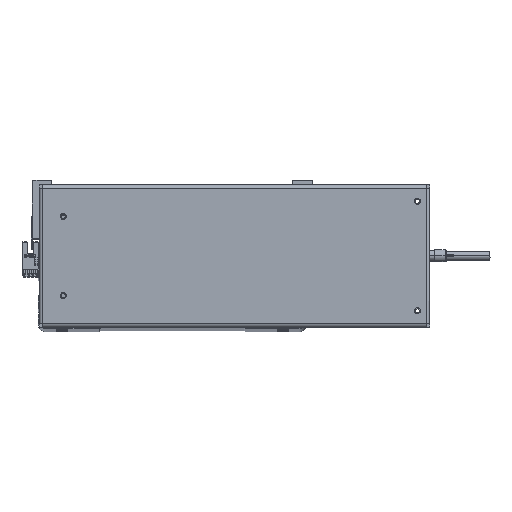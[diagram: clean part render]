
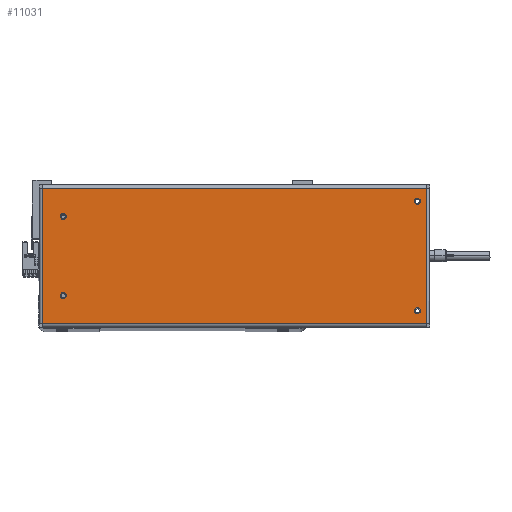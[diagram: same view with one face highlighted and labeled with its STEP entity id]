
A CAD part, top view. The second image highlights one B-rep face of the part: STEP entity #11031.
In plain terms, the highlighted planar face has unit normal (0, 0, 1).
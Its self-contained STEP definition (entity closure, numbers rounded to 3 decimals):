
#150 = VERTEX_POINT ( 'NONE', #29993 ) ;
#575 = VERTEX_POINT ( 'NONE', #26968 ) ;
#813 = VERTEX_POINT ( 'NONE', #40835 ) ;
#855 = CARTESIAN_POINT ( 'NONE',  ( 150.5, -45., 0. ) ) ;
#944 = CARTESIAN_POINT ( 'NONE',  ( -140.5, -32.5, 0. ) ) ;
#1209 = CARTESIAN_POINT ( 'NONE',  ( -143., -32.5, 0. ) ) ;
#1811 = AXIS2_PLACEMENT_3D ( 'NONE', #855, #20628, #27398 ) ;
#2831 = EDGE_LOOP ( 'NONE', ( #6246, #38321 ) ) ;
#3761 = CARTESIAN_POINT ( 'NONE',  ( -140.5, 32.5, 0. ) ) ;
#3867 = LINE ( 'NONE', #31747, #23269 ) ;
#4231 = CARTESIAN_POINT ( 'NONE',  ( 150.5, 45., 0. ) ) ;
#4738 = CARTESIAN_POINT ( 'NONE',  ( -157.7, -55.6, 0. ) ) ;
#5422 = CARTESIAN_POINT ( 'NONE',  ( -140.5, -32.5, 0. ) ) ;
#5443 = VERTEX_POINT ( 'NONE', #32523 ) ;
#5850 = AXIS2_PLACEMENT_3D ( 'NONE', #5422, #31160, #18545 ) ;
#6006 = VERTEX_POINT ( 'NONE', #31261 ) ;
#6246 = ORIENTED_EDGE ( 'NONE', *, *, #28097, .F. ) ;
#6923 = EDGE_CURVE ( 'NONE', #8421, #30774, #16231, .T. ) ;
#7291 = AXIS2_PLACEMENT_3D ( 'NONE', #4231, #33511, #20637 ) ;
#7321 = DIRECTION ( 'NONE',  ( 0., 0., 1. ) ) ;
#7381 = EDGE_CURVE ( 'NONE', #17137, #150, #33454, .T. ) ;
#8421 = VERTEX_POINT ( 'NONE', #21247 ) ;
#8557 = DIRECTION ( 'NONE',  ( 1., 0., 0. ) ) ;
#9391 = ORIENTED_EDGE ( 'NONE', *, *, #35282, .F. ) ;
#9622 = EDGE_CURVE ( 'NONE', #5443, #17137, #38468, .T. ) ;
#10382 = EDGE_CURVE ( 'NONE', #22117, #575, #36837, .T. ) ;
#11031 = ADVANCED_FACE ( 'NONE', ( #14412, #29180, #22090, #26641, #33734 ), #37830, .F. ) ;
#11108 = VECTOR ( 'NONE', #36424, 1000. ) ;
#11189 = AXIS2_PLACEMENT_3D ( 'NONE', #944, #7321, #27224 ) ;
#11957 = CIRCLE ( 'NONE', #12896, 2.5 ) ;
#12896 = AXIS2_PLACEMENT_3D ( 'NONE', #27693, #18054, #24588 ) ;
#13131 = CARTESIAN_POINT ( 'NONE',  ( 157.6, -55.6, 0. ) ) ;
#14132 = AXIS2_PLACEMENT_3D ( 'NONE', #37536, #28172, #8557 ) ;
#14412 = FACE_BOUND ( 'NONE', #39822, .T. ) ;
#14560 = DIRECTION ( 'NONE',  ( 0., 0., 1. ) ) ;
#14982 = CARTESIAN_POINT ( 'NONE',  ( -157.6, -55.6, 0. ) ) ;
#16172 = AXIS2_PLACEMENT_3D ( 'NONE', #30894, #14560, #30618 ) ;
#16231 = CIRCLE ( 'NONE', #5850, 2.5 ) ;
#16726 = DIRECTION ( 'NONE',  ( 0., 0., 1. ) ) ;
#17137 = VERTEX_POINT ( 'NONE', #14982 ) ;
#17405 = CARTESIAN_POINT ( 'NONE',  ( 157.7, 58.5, 0. ) ) ;
#17697 = ORIENTED_EDGE ( 'NONE', *, *, #19689, .F. ) ;
#17848 = ORIENTED_EDGE ( 'NONE', *, *, #36646, .T. ) ;
#18054 = DIRECTION ( 'NONE',  ( 0., 0., 1. ) ) ;
#18537 = ORIENTED_EDGE ( 'NONE', *, *, #25703, .T. ) ;
#18545 = DIRECTION ( 'NONE',  ( 1., 0., 0. ) ) ;
#19443 = DIRECTION ( 'NONE',  ( 1., 0., 0. ) ) ;
#19689 = EDGE_CURVE ( 'NONE', #813, #21437, #38982, .T. ) ;
#20379 = EDGE_CURVE ( 'NONE', #36272, #22484, #11957, .T. ) ;
#20628 = DIRECTION ( 'NONE',  ( 0., 0., 1. ) ) ;
#20637 = DIRECTION ( 'NONE',  ( 1., 0., 0. ) ) ;
#21247 = CARTESIAN_POINT ( 'NONE',  ( -138., -32.5, 0. ) ) ;
#21437 = VERTEX_POINT ( 'NONE', #30768 ) ;
#22090 = FACE_BOUND ( 'NONE', #2831, .T. ) ;
#22117 = VERTEX_POINT ( 'NONE', #22902 ) ;
#22137 = DIRECTION ( 'NONE',  ( 1., 0., 0. ) ) ;
#22484 = VERTEX_POINT ( 'NONE', #29356 ) ;
#22902 = CARTESIAN_POINT ( 'NONE',  ( 153., 45., 0. ) ) ;
#23215 = ORIENTED_EDGE ( 'NONE', *, *, #39365, .F. ) ;
#23269 = VECTOR ( 'NONE', #34717, 1000. ) ;
#24165 = CIRCLE ( 'NONE', #11189, 2.5 ) ;
#24588 = DIRECTION ( 'NONE',  ( 1., 0., 0. ) ) ;
#24839 = VECTOR ( 'NONE', #22137, 1000. ) ;
#24899 = CIRCLE ( 'NONE', #40413, 2.5 ) ;
#25703 = EDGE_CURVE ( 'NONE', #150, #6006, #38053, .T. ) ;
#26290 = CARTESIAN_POINT ( 'NONE',  ( 148., -45., 0. ) ) ;
#26300 = DIRECTION ( 'NONE',  ( 0., -1., 0. ) ) ;
#26312 = VECTOR ( 'NONE', #26300, 1000. ) ;
#26433 = CARTESIAN_POINT ( 'NONE',  ( -157.6, 55.6, 0. ) ) ;
#26641 = FACE_BOUND ( 'NONE', #30101, .T. ) ;
#26968 = CARTESIAN_POINT ( 'NONE',  ( 148., 45., 0. ) ) ;
#27224 = DIRECTION ( 'NONE',  ( 1., 0., 0. ) ) ;
#27398 = DIRECTION ( 'NONE',  ( 1., 0., 0. ) ) ;
#27693 = CARTESIAN_POINT ( 'NONE',  ( 150.5, -45., 0. ) ) ;
#28097 = EDGE_CURVE ( 'NONE', #22484, #36272, #41201, .T. ) ;
#28172 = DIRECTION ( 'NONE',  ( 0., 0., 1. ) ) ;
#29180 = FACE_BOUND ( 'NONE', #35937, .T. ) ;
#29356 = CARTESIAN_POINT ( 'NONE',  ( 153., -45., 0. ) ) ;
#29993 = CARTESIAN_POINT ( 'NONE',  ( 157.6, -55.6, 0. ) ) ;
#30101 = EDGE_LOOP ( 'NONE', ( #40895, #23215 ) ) ;
#30154 = CIRCLE ( 'NONE', #7291, 2.5 ) ;
#30618 = DIRECTION ( 'NONE',  ( 1., 0., 0. ) ) ;
#30768 = CARTESIAN_POINT ( 'NONE',  ( -143., 32.5, 0. ) ) ;
#30774 = VERTEX_POINT ( 'NONE', #1209 ) ;
#30894 = CARTESIAN_POINT ( 'NONE',  ( -140.5, 32.5, 0. ) ) ;
#31159 = DIRECTION ( 'NONE',  ( 0., 0., -1. ) ) ;
#31160 = DIRECTION ( 'NONE',  ( 0., 0., 1. ) ) ;
#31261 = CARTESIAN_POINT ( 'NONE',  ( 157.6, 55.6, 0. ) ) ;
#31422 = DIRECTION ( 'NONE',  ( -1., 0., 0. ) ) ;
#31747 = CARTESIAN_POINT ( 'NONE',  ( 157.7, 55.6, 0. ) ) ;
#32523 = CARTESIAN_POINT ( 'NONE',  ( -157.6, 55.6, 0. ) ) ;
#32581 = EDGE_CURVE ( 'NONE', #30774, #8421, #24165, .T. ) ;
#33454 = LINE ( 'NONE', #4738, #24839 ) ;
#33511 = DIRECTION ( 'NONE',  ( 0., 0., 1. ) ) ;
#33662 = ORIENTED_EDGE ( 'NONE', *, *, #7381, .T. ) ;
#33695 = ORIENTED_EDGE ( 'NONE', *, *, #6923, .F. ) ;
#33734 = FACE_OUTER_BOUND ( 'NONE', #41595, .T. ) ;
#34717 = DIRECTION ( 'NONE',  ( -1., 0., 0. ) ) ;
#34830 = ORIENTED_EDGE ( 'NONE', *, *, #9622, .T. ) ;
#35282 = EDGE_CURVE ( 'NONE', #21437, #813, #24899, .T. ) ;
#35506 = ORIENTED_EDGE ( 'NONE', *, *, #32581, .F. ) ;
#35937 = EDGE_LOOP ( 'NONE', ( #17697, #9391 ) ) ;
#36272 = VERTEX_POINT ( 'NONE', #26290 ) ;
#36424 = DIRECTION ( 'NONE',  ( 0., 1., 0. ) ) ;
#36646 = EDGE_CURVE ( 'NONE', #6006, #5443, #3867, .T. ) ;
#36837 = CIRCLE ( 'NONE', #14132, 2.5 ) ;
#37536 = CARTESIAN_POINT ( 'NONE',  ( 150.5, 45., 0. ) ) ;
#37830 = PLANE ( 'NONE',  #39483 ) ;
#38053 = LINE ( 'NONE', #13131, #11108 ) ;
#38321 = ORIENTED_EDGE ( 'NONE', *, *, #20379, .F. ) ;
#38468 = LINE ( 'NONE', #26433, #26312 ) ;
#38982 = CIRCLE ( 'NONE', #16172, 2.5 ) ;
#39365 = EDGE_CURVE ( 'NONE', #575, #22117, #30154, .T. ) ;
#39483 = AXIS2_PLACEMENT_3D ( 'NONE', #17405, #31159, #31422 ) ;
#39822 = EDGE_LOOP ( 'NONE', ( #33695, #35506 ) ) ;
#40413 = AXIS2_PLACEMENT_3D ( 'NONE', #3761, #16726, #19443 ) ;
#40835 = CARTESIAN_POINT ( 'NONE',  ( -138., 32.5, 0. ) ) ;
#40895 = ORIENTED_EDGE ( 'NONE', *, *, #10382, .F. ) ;
#41201 = CIRCLE ( 'NONE', #1811, 2.5 ) ;
#41595 = EDGE_LOOP ( 'NONE', ( #34830, #33662, #18537, #17848 ) ) ;
